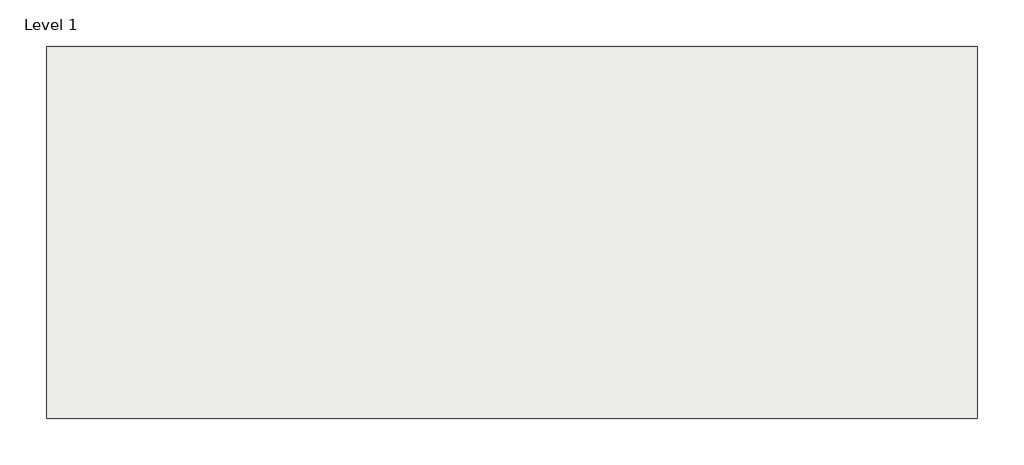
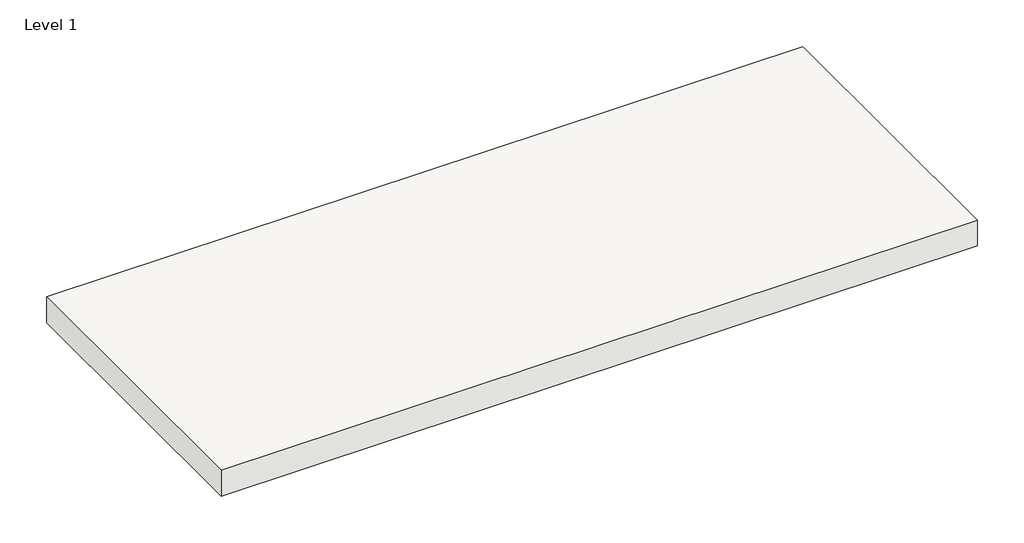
# One storey: 1 slab.
"""IFC4 building model written with IfcOpenShell, lengths in millimetres."""

import ifcopenshell
import ifcopenshell.guid

model = None  # the IFC model being written
_history = None  # IfcOwnerHistory: only IFC2X3 demands one
_inside = {}  # id of a spatial element -> (the spatial element, [elements in it])
_under = {}  # id of a project, library or spatial element -> (it, [spatial elements below it])
_declared = {}  # id of a project -> (the project, [libraries it declares])
_typed = {}  # id of a type object -> (the type object, [elements of that type])
_made_of = {}  # id of a material, layer set ... -> (it, [elements and type objects made of it])


def new_model(schema):
    """Start an empty IFC model of exactly this schema.

    Asked for "IFC4X3", IfcOpenShell would pick the latest addendum, in which some entities
    have other attributes; the version numbers below select the first issue.
    IFC2X3 requires an IfcOwnerHistory on every rooted entity: one is made here for all.
    """
    global model, _history
    if schema == "IFC4X3":
        model = ifcopenshell.file(schema_version=(4, 3, 0, 0))
    else:
        model = ifcopenshell.file(schema=schema)
    _inside.clear()
    _under.clear()
    _declared.clear()
    _typed.clear()
    _made_of.clear()
    _history = None
    if model.schema == "IFC2X3":
        org = make("IfcOrganization", Name="unknown")
        user = make(
            "IfcPersonAndOrganization",
            ThePerson=make("IfcPerson", FamilyName="unknown"),
            TheOrganization=org,
        )
        app = make(
            "IfcApplication",
            ApplicationDeveloper=org,
            Version="unknown",
            ApplicationFullName="unknown",
            ApplicationIdentifier="unknown",
        )
        _history = make(
            "IfcOwnerHistory",
            OwningUser=user,
            OwningApplication=app,
            ChangeAction="ADDED",
            CreationDate=0,
        )
    return model


def make(cls, **values):
    """One entity of the class cls with the attributes given. An attribute that is None is left unset."""
    return model.create_entity(
        cls, **{name: value for name, value in values.items() if value is not None}
    )


def rooted(cls, **values):
    """An entity with a GlobalId (a new one), such as an element, a storey or a relation."""
    return make(cls, GlobalId=ifcopenshell.guid.new(), OwnerHistory=_history, **values)


def si_unit(unit_type, name, prefix=None):
    """IfcSIUnit, for example si_unit("LENGTHUNIT", "METRE", prefix="MILLI")."""
    return make("IfcSIUnit", UnitType=unit_type, Prefix=prefix, Name=name)


def assignment(units):
    """IfcUnitAssignment: the units of a project."""
    return None if units is None else make("IfcUnitAssignment", Units=units)


def point(xyz):
    """IfcCartesianPoint."""
    return None if xyz is None else make("IfcCartesianPoint", Coordinates=xyz)


def direction(xyz):
    """IfcDirection."""
    return None if xyz is None else make("IfcDirection", DirectionRatios=xyz)


def frame(location, z_axis=None, x_axis=None):
    """IfcAxis2Placement3D, a coordinate frame: its origin and axes. An axis left out is left unset."""
    return make(
        "IfcAxis2Placement3D",
        Location=point(location),
        Axis=direction(z_axis),
        RefDirection=direction(x_axis),
    )


def origin():
    """The frame at (0, 0, 0) with its axes left unset."""
    return frame((0.0, 0.0, 0.0))


def place(relative_to, where):
    """IfcLocalPlacement: puts the frame where relative to a parent placement (None: the world)."""
    return make(
        "IfcLocalPlacement", PlacementRelTo=relative_to, RelativePlacement=where
    )


def context(
    kind, dimensions, precision=None, world=None, true_north=None, identifier=None
):
    """IfcGeometricRepresentationContext, for example the 3D "Model" context."""
    return make(
        "IfcGeometricRepresentationContext",
        ContextIdentifier=identifier,
        ContextType=kind,
        CoordinateSpaceDimension=dimensions,
        Precision=precision,
        WorldCoordinateSystem=world,
        TrueNorth=true_north,
    )


def project(units=None, contexts=None):
    """IfcProject with its units and contexts."""
    return rooted(
        "IfcProject",
        Name="project",
        RepresentationContexts=contexts,
        UnitsInContext=assignment(units),
    )


def spatial(cls, under=None, at=None, **own):
    """A site, building, storey or space (cls), placed at a placement, below another one or the project."""
    s = rooted(cls, ObjectPlacement=at, **own)
    if under is not None:
        _under.setdefault(under.id(), (under, []))[1].append(s)
    return s


def polyline(points):
    """IfcPolyline through the points."""
    return make("IfcPolyline", Points=[point(p) for p in points])


def outline(outer, holes=None, kind="AREA"):
    """IfcArbitraryClosedProfileDef: a profile drawn as a closed curve; with holes, ...WithVoids."""
    if holes is None:
        return make("IfcArbitraryClosedProfileDef", ProfileType=kind, OuterCurve=outer)
    return make(
        "IfcArbitraryProfileDefWithVoids",
        ProfileType=kind,
        OuterCurve=outer,
        InnerCurves=holes,
    )


def extrude(swept, where, along, depth):
    """IfcExtrudedAreaSolid: the profile swept, set in the frame where, extruded along a direction by depth."""
    return make(
        "IfcExtrudedAreaSolid",
        SweptArea=swept,
        Position=where,
        ExtrudedDirection=direction(along),
        Depth=depth,
    )


def shape(context_of_items, identifier, shape_type, items):
    """IfcShapeRepresentation: the items that make up one representation, for example the "Body"."""
    return make(
        "IfcShapeRepresentation",
        ContextOfItems=context_of_items,
        RepresentationIdentifier=identifier,
        RepresentationType=shape_type,
        Items=items,
    )


def made_of(thing, what):
    """Note that an element or type object is made of a material, layer set ...; save() writes the relation."""
    if what is not None:
        _made_of.setdefault(what.id(), (what, []))[1].append(thing)
    return thing


def element(
    cls,
    number,
    at=None,
    inside=None,
    cuts=None,
    type_object=None,
    material=None,
    context=None,
    identifier="Body",
    shape_type=None,
    held_by="IfcProductDefinitionShape",
    body=None,
    shapes=None,
    **own,
):
    """One element of the class cls, such as IfcWall. Its Tag is "e" and its number.

    at: its placement. inside: the storey or other place that contains it. cuts: it is an
    opening in that element (IfcRelVoidsElement). A single representation is given by context,
    identifier, shape_type and body (its items); several are given by shapes. held_by: the class
    of the entity that holds the representations. save() writes the other relations.
    """
    e = rooted(cls, Tag="e%d" % number, ObjectPlacement=at, **own)
    if body is not None:
        shapes = [shape(context, identifier, shape_type, body)]
    if shapes is not None:
        e.Representation = make(held_by, Representations=shapes)
    if inside is not None:
        _inside.setdefault(inside.id(), (inside, []))[1].append(e)
    if cuts is not None:
        rooted(
            "IfcRelVoidsElement", RelatingBuildingElement=cuts, RelatedOpeningElement=e
        )
    if type_object is not None:
        _typed.setdefault(type_object.id(), (type_object, []))[1].append(e)
    return made_of(e, material)


def aggregate(whole, parts):
    """IfcRelAggregates: a whole, such as a stair, and the parts it consists of."""
    return rooted("IfcRelAggregates", RelatingObject=whole, RelatedObjects=parts)


def save(model, path):
    """Write the relations noted so far, then the file.

    IfcRelAggregates (storeys below a building ...), IfcRelContainedInSpatialStructure (elements
    in a storey), IfcRelDefinesByType, IfcRelAssociatesMaterial and IfcRelDeclares: one each for
    every whole, place, type object, material and project.
    """
    for whole, parts in _under.values():
        aggregate(whole, parts)
    for where, things in _inside.values():
        rooted(
            "IfcRelContainedInSpatialStructure",
            RelatedElements=things,
            RelatingStructure=where,
        )
    for kind, things in _typed.values():
        rooted("IfcRelDefinesByType", RelatedObjects=things, RelatingType=kind)
    for what, things in _made_of.values():
        rooted("IfcRelAssociatesMaterial", RelatedObjects=things, RelatingMaterial=what)
    for by, libraries in _declared.values():
        rooted("IfcRelDeclares", RelatingContext=by, RelatedDefinitions=libraries)
    model.write(path)


model = new_model("IFC4")

# Units and contexts
model_context = context("Model", 3, world=origin())
ifc_project = project(units=[si_unit("LENGTHUNIT", "METRE", prefix="MILLI")], contexts=[model_context])

# Site, building, storey
site = spatial("IfcSite", under=ifc_project)
building = spatial("IfcBuilding", under=site)
storey = spatial("IfcBuildingStorey", under=building, Name="Level 1", Elevation=0.0)

# Slab
placement = place(None, origin())
element("IfcSlab", 1, ObjectType="ENVU4.5L", at=placement, inside=storey, context=model_context, shape_type="SweptSolid", body=[
    extrude(outline(polyline([(5506.4279261, 3831.5926078), (5506.4279261, 2002.7926078), (934.4279261, 2002.7926078), (934.4279261, 3831.5926078), (5506.4279261, 3831.5926078)])), frame((0.0, 0.0, -165.1), z_axis=(0.0, 0.0, 1.0), x_axis=(1.0, 0.0, 0.0)), (0.0, 0.0, 1.0), 165.1),
])

save(model, "model.ifc")
